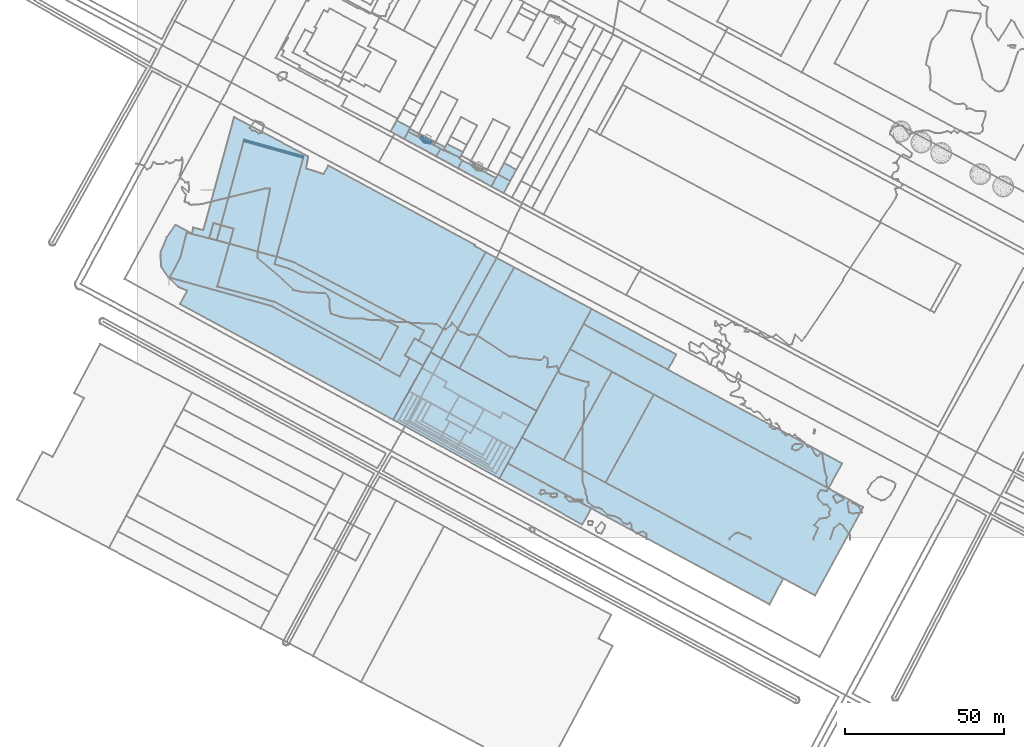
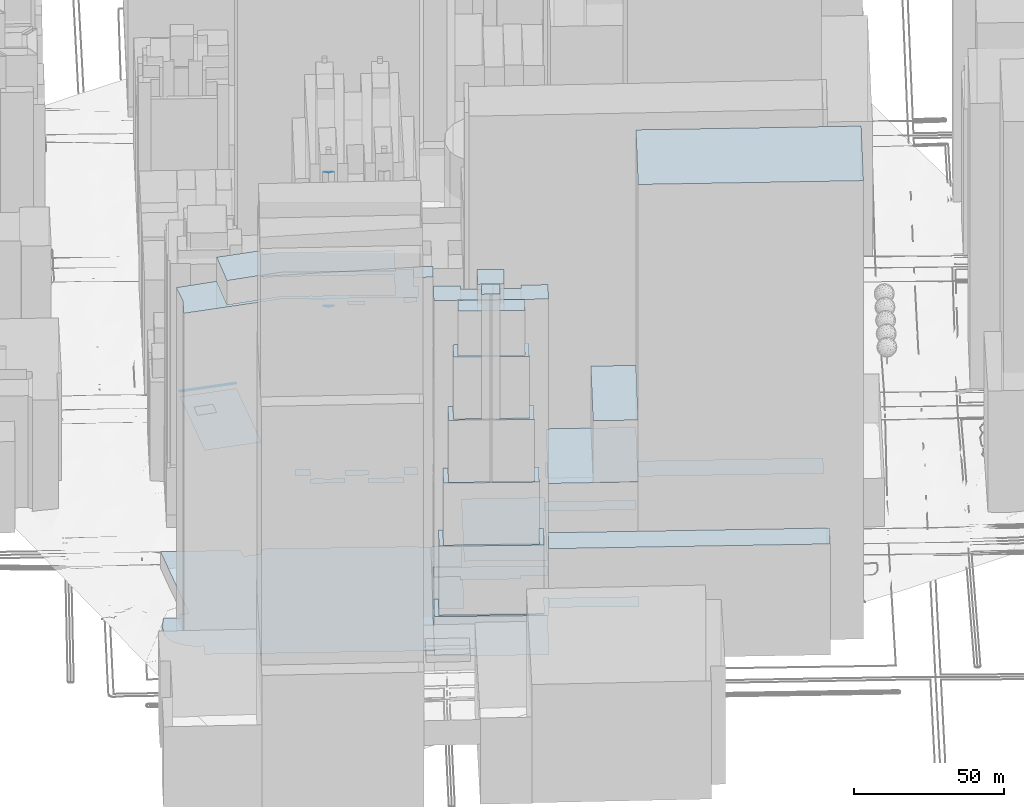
# Not in any storey, part 37 of 80: 37 roofs.
"""IFC4 building model written with IfcOpenShell, lengths in metres."""

from ifc_helpers import new_model, si_unit, frame, origin_with_axes, place, context, subcontext, project, spatial, polygons, element, save


model = new_model("IFC4")

# Units and contexts
model_context = context("Model", 3, precision=1e-05, world=origin_with_axes())
body_context = subcontext(model_context, "Body", "Model", "MODEL_VIEW")
ifc_project = project(units=[si_unit("AREAUNIT", "SQUARE_METRE"), si_unit("LENGTHUNIT", "METRE")], contexts=[model_context])

# Sites, building
site_1_placement = place(None, origin_with_axes())
site_1 = spatial("IfcSite", under=ifc_project, at=site_1_placement, Name="Topoexport Site")
site_2_placement = place(site_1_placement, origin_with_axes())
site_2 = spatial("IfcSite", under=site_1, at=site_2_placement, Name="TPX_BATIMENTS")
building_1_placement = place(site_2_placement, frame((114.0067788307, 18.7761491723, 19.812011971), z_axis=(0.0, 0.0, 1.0), x_axis=(1.0, 0.0, 0.0)))
building_1 = spatial("IfcBuilding", under=site_2, at=building_1_placement, Name="Batiment 14", CompositionType="ELEMENT")

# Roof
roof_1_placement = place(None, frame((114.0067788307, 18.7761491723, 19.812011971), z_axis=(0.0, 0.0, 1.0), x_axis=(1.0, 0.0, 0.0)))
element("IfcRoof", 1, at=roof_1_placement, inside=building_1, Name="Toiture 0", context=body_context, shape_type="Tessellation", body=[
    polygons([(0.0, 0.0, 25.0), (26.1365112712, -14.6177862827, 25.0), (28.9299641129, -9.4671911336, 25.0), (2.6213710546, 4.7044961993, 25.0)], [[[4, 1, 2]], [[2, 3, 4]]]),
])

# Building
building_2_placement = place(site_2_placement, frame((116.6281498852, 23.4806453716, 19.8729106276), z_axis=(0.0, 0.0, 1.0), x_axis=(1.0, 0.0, 0.0)))
building_2 = spatial("IfcBuilding", under=site_2, at=building_2_placement, Name="Batiment 15", CompositionType="ELEMENT")

# Roof
roof_2_placement = place(None, frame((116.6281498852, 23.4806453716, 19.8729106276), z_axis=(0.0, 0.0, 1.0), x_axis=(1.0, 0.0, 0.0)))
element("IfcRoof", 2, at=roof_2_placement, inside=building_2, Name="Toiture 0", context=body_context, shape_type="Tessellation", body=[
    polygons([(0.0, 0.0, 45.0), (82.4513940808, -44.4055894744, 45.0), (86.7882297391, -36.2283155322, 45.0), (4.4642793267, 8.112091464, 45.0)], [[[4, 1, 2]], [[2, 3, 4]]]),
])

# Building
building_3_placement = place(site_2_placement, frame((147.4689145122, 17.3885478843, 19.6016125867), z_axis=(0.0, 0.0, 1.0), x_axis=(1.0, 0.0, 0.0)))
building_3 = spatial("IfcBuilding", under=site_2, at=building_3_placement, Name="Batiment 16", CompositionType="ELEMENT")

# Roof
roof_3_placement = place(None, frame((147.4689145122, 17.3885478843, 19.6016125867), z_axis=(0.0, 0.0, 1.0), x_axis=(1.0, 0.0, 0.0)))
element("IfcRoof", 3, at=roof_3_placement, inside=building_3, Name="Toiture 0", context=body_context, shape_type="Tessellation", body=[
    polygons([(0.0, 0.0, 186.0), (65.9545168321, -35.5265708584, 186.0), (81.1469833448, -7.7163751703, 186.0), (15.1841917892, 27.8099611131, 186.0)], [[[4, 1, 2]], [[2, 3, 4]]]),
])

# Building
building_4_placement = place(site_2_placement, frame((136.2766873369, 59.4026434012, 19.8866502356), z_axis=(0.0, 0.0, 1.0), x_axis=(1.0, 0.0, 0.0)))
building_4 = spatial("IfcBuilding", under=site_2, at=building_4_placement, Name="Batiment 17", CompositionType="ELEMENT")

# Roof
roof_4_placement = place(None, frame((136.2766873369, 59.4026434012, 19.8866502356), z_axis=(0.0, 0.0, 1.0), x_axis=(1.0, 0.0, 0.0)))
element("IfcRoof", 4, at=roof_4_placement, inside=building_4, Name="Toiture 0", context=body_context, shape_type="Tessellation", body=[
    polygons([(0.0, 0.0, 45.0), (81.3807730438, -43.8293972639, 45.0), (85.6535269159, -35.9526169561, 45.0), (4.2387920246, 7.8985421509, 45.0)], [[[4, 1, 2]], [[2, 3, 4]]]),
])

# Building
building_5_placement = place(site_2_placement, frame((140.5154793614, 67.301185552, 20.1850862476), z_axis=(0.0, 0.0, 1.0), x_axis=(1.0, 0.0, 0.0)))
building_5 = spatial("IfcBuilding", under=site_2, at=building_5_placement, Name="Batiment 18", CompositionType="ELEMENT")

# Roof
roof_5_placement = place(None, frame((140.5154793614, 67.301185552, 20.1850862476), z_axis=(0.0, 0.0, 1.0), x_axis=(1.0, 0.0, 0.0)))
element("IfcRoof", 5, at=roof_5_placement, inside=building_5, Name="Toiture 0", context=body_context, shape_type="Tessellation", body=[
    polygons([(0.0, 0.0, 25.0), (26.597401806, -14.3347775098, 25.0), (29.2006844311, -9.5305509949, 25.0), (2.5614786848, 4.7704244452, 25.0)], [[[4, 1, 2]], [[2, 3, 4]]]),
])

# Building
building_6_placement = place(site_2_placement, frame((121.0924292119, 31.5927368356, 19.8759564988), z_axis=(0.0, 0.0, 1.0), x_axis=(1.0, 0.0, 0.0)))
building_6 = spatial("IfcBuilding", under=site_2, at=building_6_placement, Name="Batiment 19", CompositionType="ELEMENT")

# Roof
roof_6_placement = place(None, frame((121.0924292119, 31.5927368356, 19.8759564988), z_axis=(0.0, 0.0, 1.0), x_axis=(1.0, 0.0, 0.0)))
element("IfcRoof", 6, at=roof_6_placement, inside=building_6, Name="Toiture 0", context=body_context, shape_type="Tessellation", body=[
    polygons([(0.0, 0.0, 65.0), (26.3764853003, -14.2041889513, 65.0), (41.5606770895, 13.6057721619, 65.0), (15.1842581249, 27.8099065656, 65.0)], [[[4, 1, 2]], [[2, 3, 4]]]),
])

# Building
building_7_placement = place(site_2_placement, frame((134.2679337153, 24.4960340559, 85.0121369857), z_axis=(0.0, 0.0, 1.0), x_axis=(1.0, 0.0, 0.0)))
building_7 = spatial("IfcBuilding", under=site_2, at=building_7_placement, Name="Batiment 20", CompositionType="ELEMENT")

# Roof
roof_7_placement = place(None, frame((134.2679337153, 24.4960340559, 85.0121369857), z_axis=(0.0, 0.0, 1.0), x_axis=(1.0, 0.0, 0.0)))
element("IfcRoof", 7, at=roof_7_placement, inside=building_7, Name="Toiture 0", context=body_context, shape_type="Tessellation", body=[
    polygons([(0.0, 0.0, 25.0), (13.2009807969, -7.1074861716, 25.0), (28.3851725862, 20.7024749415, 25.0), (15.1842249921, 27.8099338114, 25.0)], [[[4, 1, 2]], [[2, 3, 4]]]),
])

# Building
building_8_placement = place(site_2_placement, frame((80.6336597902, 37.2179875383, 19.5500389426), z_axis=(0.0, 0.0, 1.0), x_axis=(1.0, 0.0, 0.0)))
building_8 = spatial("IfcBuilding", under=site_2, at=building_8_placement, Name="Batiment 21", CompositionType="ELEMENT")

# Roof
roof_8_placement = place(None, frame((80.6336597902, 37.2179875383, 19.5500389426), z_axis=(0.0, 0.0, 1.0), x_axis=(1.0, 0.0, 0.0)))
element("IfcRoof", 8, at=roof_8_placement, inside=building_8, Name="Toiture 0", context=body_context, shape_type="Tessellation", body=[
    polygons([(0.0, 0.0, 6.0), (33.3731190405, -18.441838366, 6.0), (45.0971948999, 2.7553209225, 6.0), (11.6985592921, 21.2190134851, 6.0)], [[[4, 1, 2]], [[2, 3, 4]]]),
])

# Building
building_9_placement = place(site_2_placement, frame((97.2544970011, 37.2888688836, 19.612828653), z_axis=(0.0, 0.0, 1.0), x_axis=(1.0, 0.0, 0.0)))
building_9 = spatial("IfcBuilding", under=site_2, at=building_9_placement, Name="Batiment 22", CompositionType="ELEMENT")

# Roof
roof_9_placement = place(None, frame((97.2544970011, 37.2888688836, 19.612828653), z_axis=(0.0, 0.0, 1.0), x_axis=(1.0, 0.0, 0.0)))
element("IfcRoof", 9, at=roof_9_placement, inside=building_9, Name="Toiture 0", context=body_context, shape_type="Tessellation", body=[
    polygons([(0.0, 0.0, 151.0), (7.7655788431, -4.295199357, 151.0), (11.9084198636, 3.14701657, 151.0), (4.1512866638, 7.4423095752, 151.0)], [[[4, 1, 2]], [[2, 3, 4]]]),
])

# Building
building_10_placement = place(site_2_placement, frame((85.6283664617, 46.1799867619, 19.6882360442), z_axis=(0.0, 0.0, 1.0), x_axis=(1.0, 0.0, 0.0)))
building_10 = spatial("IfcBuilding", under=site_2, at=building_10_placement, Name="Batiment 23", CompositionType="ELEMENT")

# Roof
roof_10_placement = place(None, frame((85.6283664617, 46.1799867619, 19.6882360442), z_axis=(0.0, 0.0, 1.0), x_axis=(1.0, 0.0, 0.0)))
element("IfcRoof", 10, at=roof_10_placement, inside=building_10, Name="Toiture 0", context=body_context, shape_type="Tessellation", body=[
    polygons([(0.0, 0.0, 143.0), (33.4391985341, -18.3189230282, 143.0), (37.4908592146, -11.0220874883, 143.0), (29.5893203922, -6.650770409, 143.0), (28.6218928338, -8.3939587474, 143.0), (10.9668168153, 1.3597031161, 143.0), (11.8682699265, 2.9688959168, 143.0), (4.0518112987, 7.2857163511, 143.0)], [[[8, 1, 2]], [[2, 3, 4]], [[6, 7, 8]], [[2, 4, 5]], [[6, 8, 2]], [[2, 5, 6]]]),
])

# Building
building_11_placement = place(site_2_placement, frame((89.6801777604, 53.465703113, 19.6964299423), z_axis=(0.0, 0.0, 1.0), x_axis=(1.0, 0.0, 0.0)))
building_11 = spatial("IfcBuilding", under=site_2, at=building_11_placement, Name="Batiment 24", CompositionType="ELEMENT")

# Roof
roof_11_placement = place(None, frame((89.6801777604, 53.465703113, 19.6964299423), z_axis=(0.0, 0.0, 1.0), x_axis=(1.0, 0.0, 0.0)))
element("IfcRoof", 11, at=roof_11_placement, inside=building_11, Name="Toiture 0", context=body_context, shape_type="Tessellation", body=[
    polygons([(0.0, 0.0, 25.0), (7.8164586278, -4.3168204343, 25.0), (6.9150055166, -5.926013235, 25.0), (24.5700815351, -15.6796750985, 25.0), (25.5375090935, -13.9364867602, 25.0), (33.4390479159, -18.3078038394, 25.0), (36.0506769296, -13.4923946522, 25.0), (2.6520413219, 4.9712979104, 25.0)], [[[8, 1, 2]], [[2, 3, 4]], [[5, 6, 7]], [[7, 8, 2]], [[2, 4, 5]], [[5, 7, 2]]]),
])

# Building
building_12_placement = place(site_2_placement, frame((101.457152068, 53.3915293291, 19.7455046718), z_axis=(0.0, 0.0, 1.0), x_axis=(1.0, 0.0, 0.0)))
building_12 = spatial("IfcBuilding", under=site_2, at=building_12_placement, Name="Batiment 25", CompositionType="ELEMENT")

# Roof
roof_12_placement = place(None, frame((101.457152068, 53.3915293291, 19.7455046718), z_axis=(0.0, 0.0, 1.0), x_axis=(1.0, 0.0, 0.0)))
element("IfcRoof", 12, at=roof_12_placement, inside=building_12, Name="Toiture 0", context=body_context, shape_type="Tessellation", body=[
    polygons([(0.0, 0.0, 27.2000007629), (24.273702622, -13.4182208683, 27.2000007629), (41.6198059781, 18.6800806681, 27.2000007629), (17.2230477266, 31.7970531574, 27.2000007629)], [[[4, 1, 2]], [[2, 3, 4]]]),
])

# Building
building_13_placement = place(site_2_placement, frame((92.3322190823, 58.4370010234, 26.7455046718), z_axis=(0.0, 0.0, 1.0), x_axis=(1.0, 0.0, 0.0)))
building_13 = spatial("IfcBuilding", under=site_2, at=building_13_placement, Name="Batiment 26", CompositionType="ELEMENT")

# Roof
roof_13_placement = place(None, frame((92.3322190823, 58.4370010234, 26.7455046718), z_axis=(0.0, 0.0, 1.0), x_axis=(1.0, 0.0, 0.0)))
element("IfcRoof", 13, at=roof_13_placement, inside=building_13, Name="Toiture 0", context=body_context, shape_type="Tessellation", body=[
    polygons([(0.0, 0.0, 1.0), (9.1249329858, -5.0454716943, 1.0), (26.3479807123, 26.751581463, 1.0), (17.4371802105, 31.5330646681, 1.0)], [[[4, 1, 2]], [[2, 3, 4]]]),
])

# Building
building_14_placement = place(site_2_placement, frame((111.5045105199, 110.6515077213, 20.6975796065), z_axis=(0.0, 0.0, 1.0), x_axis=(1.0, 0.0, 0.0)))
building_14 = spatial("IfcBuilding", under=site_2, at=building_14_placement, Name="Batiment 28", CompositionType="ELEMENT")

# Roof
roof_14_placement = place(None, frame((111.5045105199, 110.6515077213, 20.6975796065), z_axis=(0.0, 0.0, 1.0), x_axis=(1.0, 0.0, 0.0)))
element("IfcRoof", 14, at=roof_14_placement, inside=building_14, Name="Toiture 0", context=body_context, shape_type="Tessellation", body=[
    polygons([(0.0, 0.0, 23.0), (3.9161944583, -2.1194488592, 23.0), (5.9481877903, 1.7233296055, 23.0), (2.0830242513, 3.8100633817, 23.0)], [[[4, 1, 2]], [[2, 3, 4]]]),
])

# Building
building_15_placement = place(site_2_placement, frame((101.0554515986, 116.3255174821, 20.7066671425), z_axis=(0.0, 0.0, 1.0), x_axis=(1.0, 0.0, 0.0)))
building_15 = spatial("IfcBuilding", under=site_2, at=building_15_placement, Name="Batiment 32", CompositionType="ELEMENT")

# Roof
roof_15_placement = place(None, frame((101.0554515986, 116.3255174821, 20.7066671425), z_axis=(0.0, 0.0, 1.0), x_axis=(1.0, 0.0, 0.0)))
element("IfcRoof", 15, at=roof_15_placement, inside=building_15, Name="Toiture 0", context=body_context, shape_type="Tessellation", body=[
    polygons([(0.0, 0.0, 20.0), (10.4490589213, -5.6740097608, 20.0), (11.8959655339, -3.0592762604, 20.0), (7.7933107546, -0.875378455, 20.0), (5.7130921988, -0.5664729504, 20.0), (4.3532680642, 0.949843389, 20.0), (1.3463972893, 2.5469505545, 20.0)], [[[7, 1, 2]], [[2, 3, 4]], [[5, 6, 7]], [[2, 4, 5]], [[5, 7, 2]]]),
])

# Building
building_16_placement = place(site_2_placement, frame((113.5875347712, 114.461571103, 20.7566379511), z_axis=(0.0, 0.0, 1.0), x_axis=(1.0, 0.0, 0.0)))
building_16 = spatial("IfcBuilding", under=site_2, at=building_16_placement, Name="Batiment 36", CompositionType="ELEMENT")

# Roof
roof_16_placement = place(None, frame((113.5875347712, 114.461571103, 20.7566379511), z_axis=(0.0, 0.0, 1.0), x_axis=(1.0, 0.0, 0.0)))
element("IfcRoof", 16, at=roof_16_placement, inside=building_16, Name="Toiture 0", context=body_context, shape_type="Tessellation", body=[
    polygons([(0.0, 0.0, 90.0), (3.8651635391, -2.0867337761, 90.0), (5.7992221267, 1.4662491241, 90.0), (1.9000401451, 3.5747912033, 90.0)], [[[4, 1, 2]], [[2, 3, 4]]]),
])

# Building
building_17_placement = place(site_2_placement, frame((89.3637116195, 126.5148286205, 113.9436356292), z_axis=(0.0, 0.0, 1.0), x_axis=(1.0, 0.0, 0.0)))
building_17 = spatial("IfcBuilding", under=site_2, at=building_17_placement, Name="Batiment 188", CompositionType="ELEMENT")

# Roof
roof_17_placement = place(None, frame((89.3637116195, 126.5148286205, 113.9436356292), z_axis=(0.0, 0.0, 1.0), x_axis=(1.0, 0.0, 0.0)))
element("IfcRoof", 17, at=roof_17_placement, inside=building_17, Name="Toiture 0", context=body_context, shape_type="Tessellation", body=[
    polygons([(0.0, 0.0, 51.0), (1.4178709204, -1.4268270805, 51.0), (3.4315938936, -1.825327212, 51.0), (0.9512587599, -0.4996567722, 51.0)], [[[4, 1, 2]], [[2, 3, 4]]]),
])

# Building
building_18_placement = place(site_2_placement, frame((89.049807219, 125.9227641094, 40.9291720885), z_axis=(0.0, 0.0, 1.0), x_axis=(1.0, 0.0, 0.0)))
building_18 = spatial("IfcBuilding", under=site_2, at=building_18_placement, Name="Batiment 190", CompositionType="ELEMENT")

# Roof
roof_18_placement = place(None, frame((89.049807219, 125.9227641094, 40.9291720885), z_axis=(0.0, 0.0, 1.0), x_axis=(1.0, 0.0, 0.0)))
element("IfcRoof", 18, at=roof_18_placement, inside=building_18, Name="Toiture 0", context=body_context, shape_type="Tessellation", body=[
    polygons([(0.0, 0.0, 70.0), (1.3513787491, -1.5164173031, 70.0), (3.4399056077, -1.8141285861, 70.0)], [[[3, 1, 2]]]),
])

# Building
building_19_placement = place(site_2_placement, frame((85.346445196, 127.8892664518, 20.9224524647), z_axis=(0.0, 0.0, 1.0), x_axis=(1.0, 0.0, 0.0)))
building_19 = spatial("IfcBuilding", under=site_2, at=building_19_placement, Name="Batiment 191", CompositionType="ELEMENT")

# Roof
roof_19_placement = place(None, frame((85.346445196, 127.8892664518, 20.9224524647), z_axis=(0.0, 0.0, 1.0), x_axis=(1.0, 0.0, 0.0)))
element("IfcRoof", 19, at=roof_19_placement, inside=building_19, Name="Toiture 0", context=body_context, shape_type="Tessellation", body=[
    polygons([(0.0, 0.0, 93.0), (11.0759435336, -5.8665913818, 93.0), (11.6132272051, -4.8833535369, 93.0), (8.5131290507, -3.254018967, 93.0), (8.2981897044, -3.6450938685, 93.0), (7.4488603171, -3.1997650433, 93.0), (0.5122211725, 0.9607414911, 93.0)], [[[7, 1, 2]], [[2, 3, 4]], [[6, 7, 2]], [[2, 4, 5]], [[5, 6, 2]]]),
])

# Building
building_20_placement = place(site_2_placement, frame((79.7834254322, 127.8912834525, 20.9495116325), z_axis=(0.0, 0.0, 1.0), x_axis=(1.0, 0.0, 0.0)))
building_20 = spatial("IfcBuilding", under=site_2, at=building_20_placement, Name="Batiment 194", CompositionType="ELEMENT")

# Roof
roof_20_placement = place(None, frame((79.7834254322, 127.8912834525, 20.9495116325), z_axis=(0.0, 0.0, 1.0), x_axis=(1.0, 0.0, 0.0)))
element("IfcRoof", 20, at=roof_20_placement, inside=building_20, Name="Toiture 0", context=body_context, shape_type="Tessellation", body=[
    polygons([(0.0, 0.0, 23.0), (4.3157123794, -2.3590755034, 23.0), (6.2321287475, 1.260307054, 23.0), (1.9932839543, 3.5425582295, 23.0)], [[[4, 1, 2]], [[2, 3, 4]]]),
])

# Building
building_21_placement = place(site_2_placement, frame((22.7189740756, 94.3773567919, 88.9019969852), z_axis=(0.0, 0.0, 1.0), x_axis=(1.0, 0.0, 0.0)))
building_21 = spatial("IfcBuilding", under=site_2, at=building_21_placement, Name="Batiment 199", CompositionType="ELEMENT")

# Roof
roof_21_placement = place(None, frame((22.7189740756, 94.3773567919, 88.9019969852), z_axis=(0.0, 0.0, 1.0), x_axis=(1.0, 0.0, 0.0)))
element("IfcRoof", 21, at=roof_21_placement, inside=building_21, Name="Toiture 0", context=body_context, shape_type="Tessellation", body=[
    polygons([(0.0, 0.0, 20.0), (6.3601779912, -1.7691695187, 20.0), (7.681097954, 2.9757163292, 20.0), (1.3210524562, 4.7337839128, 20.0)], [[[4, 1, 2]], [[2, 3, 4]]]),
])

# Building
building_22_placement = place(site_2_placement, frame((25.0902924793, 93.7165336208, 19.1898978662), z_axis=(0.0, 0.0, 1.0), x_axis=(1.0, 0.0, 0.0)))
building_22 = spatial("IfcBuilding", under=site_2, at=building_22_placement, Name="Batiment 200", CompositionType="ELEMENT")

# Roof
roof_22_placement = place(None, frame((25.0902924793, 93.7165336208, 19.1898978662), z_axis=(0.0, 0.0, 1.0), x_axis=(1.0, 0.0, 0.0)))
element("IfcRoof", 22, at=roof_22_placement, inside=building_22, Name="Toiture 0", context=body_context, shape_type="Tessellation", body=[
    polygons([(0.0, 0.0, 75.0), (18.8092921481, -5.2107143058, 75.0), (27.1849139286, 25.928386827, 75.0), (8.4934731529, 31.1737525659, 75.0)], [[[4, 1, 2]], [[2, 3, 4]]]),
])

# Building
building_23_placement = place(site_2_placement, frame((33.5837656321, 124.8902861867, 21.1228938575), z_axis=(0.0, 0.0, 1.0), x_axis=(1.0, 0.0, 0.0)))
building_23 = spatial("IfcBuilding", under=site_2, at=building_23_placement, Name="Batiment 201", CompositionType="ELEMENT")

# Roof
roof_23_placement = place(None, frame((33.5837656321, 124.8902861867, 21.1228938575), z_axis=(0.0, 0.0, 1.0), x_axis=(1.0, 0.0, 0.0)))
element("IfcRoof", 23, at=roof_23_placement, inside=building_23, Name="Toiture 0", context=body_context, shape_type="Tessellation", body=[
    polygons([(0.0, 0.0, 75.0), (18.6914407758, -5.2453657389, 75.0), (18.8375703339, -4.7440683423, 75.0), (0.1460018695, 0.512397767, 75.0)], [[[4, 1, 2]], [[2, 3, 4]]]),
])

# Building
building_24_placement = place(site_2_placement, frame((84.0991378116, 125.5322079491, 20.8772412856), z_axis=(0.0, 0.0, 1.0), x_axis=(1.0, 0.0, 0.0)))
building_24 = spatial("IfcBuilding", under=site_2, at=building_24_placement, Name="Batiment 202", CompositionType="ELEMENT")

# Roof
roof_24_placement = place(None, frame((84.0991378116, 125.5322079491, 20.8772412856), z_axis=(0.0, 0.0, 1.0), x_axis=(1.0, 0.0, 0.0)))
element("IfcRoof", 24, at=roof_24_placement, inside=building_24, Name="Toiture 0", context=body_context, shape_type="Tessellation", body=[
    polygons([(0.0, 0.0, 20.0), (10.0753325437, -5.4785327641, 20.0), (11.4144512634, -3.0315882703, 20.0), (8.3905750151, -1.4235724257, 20.0), (6.3020481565, -1.1258611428, 20.0), (4.9506694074, 0.3905561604, 20.0), (1.2473073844, 2.3570585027, 20.0)], [[[7, 1, 2]], [[2, 3, 4]], [[5, 6, 7]], [[2, 4, 5]], [[5, 7, 2]]]),
])

# Building
building_25_placement = place(site_2_placement, frame((96.571222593, 122.290857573, 20.9256419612), z_axis=(0.0, 0.0, 1.0), x_axis=(1.0, 0.0, 0.0)))
building_25 = spatial("IfcBuilding", under=site_2, at=building_25_placement, Name="Batiment 204", CompositionType="ELEMENT")

# Roof
roof_25_placement = place(None, frame((96.571222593, 122.290857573, 20.9256419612), z_axis=(0.0, 0.0, 1.0), x_axis=(1.0, 0.0, 0.0)))
element("IfcRoof", 25, at=roof_25_placement, inside=building_25, Name="Toiture 0", context=body_context, shape_type="Tessellation", body=[
    polygons([(0.0, 0.0, 90.0), (5.0532629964, -2.6280560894, 90.0), (5.9949739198, -0.8518608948, 90.0), (0.9583347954, 1.7985921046, 90.0)], [[[4, 1, 2]], [[2, 3, 4]]]),
])

# Building
building_26_placement = place(site_2_placement, frame((94.1744703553, 120.053675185, 20.8772412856), z_axis=(0.0, 0.0, 1.0), x_axis=(1.0, 0.0, 0.0)))
building_26 = spatial("IfcBuilding", under=site_2, at=building_26_placement, Name="Batiment 205", CompositionType="ELEMENT")

# Roof
roof_26_placement = place(None, frame((94.1744703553, 120.053675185, 20.8772412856), z_axis=(0.0, 0.0, 1.0), x_axis=(1.0, 0.0, 0.0)))
element("IfcRoof", 26, at=roof_26_placement, inside=building_26, Name="Toiture 0", context=body_context, shape_type="Tessellation", body=[
    polygons([(0.0, 0.0, 23.0), (6.8809812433, -3.7281577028, 23.0), (8.2273785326, -1.1812071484, 23.0), (7.2929989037, -0.6813558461, 23.0), (7.4500152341, -0.3908737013, 23.0), (1.3391187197, 2.4469444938, 23.0)], [[[6, 1, 2]], [[2, 3, 4]], [[4, 5, 6]], [[6, 2, 4]]]),
])

# Building
building_27_placement = place(site_2_placement, frame((7.3491025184, 89.8136402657, 17.7214611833), z_axis=(0.0, 0.0, 1.0), x_axis=(1.0, 0.0, 0.0)))
building_27 = spatial("IfcBuilding", under=site_2, at=building_27_placement, Name="Batiment 206", CompositionType="ELEMENT")

# Roof
roof_27_placement = place(None, frame((7.3491025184, 89.8136402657, 17.7214611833), z_axis=(0.0, 0.0, 1.0), x_axis=(1.0, 0.0, 0.0)))
element("IfcRoof", 27, at=roof_27_placement, inside=building_27, Name="Toiture 0", context=body_context, shape_type="Tessellation", body=[
    polygons([(0.0, 0.0, 10.0), (0.2453875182, -4.415847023, 10.0), (2.6154001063, -7.8744561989, 10.0), (5.7231550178, -10.8915176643, 10.0), (8.4542586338, -12.0033616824, 10.0), (6.1566151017, -16.2377711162, 10.0), (73.2845572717, -52.5956527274, 10.0), (102.4202967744, 0.1564254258, 10.0), (98.8779250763, 2.0692765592, 10.0), (99.0514359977, 2.3932571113, 10.0), (52.8636652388, 27.4365171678, 10.0), (51.4007622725, 24.7438929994, 10.0), (45.8767148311, 26.4783333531, 10.0), (46.5332031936, 30.282922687, 10.0), (23.1839558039, 42.6351800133, 10.0), (13.5007386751, 7.051135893, 10.0), (10.3255164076, 7.8802686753, 10.0), (9.9255178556, 5.9771433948, 10.0), (4.7352910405, 8.7702011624, 10.0), (2.0193040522, 4.9417221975, 10.0)], [[[20, 1, 2]], [[2, 3, 4]], [[5, 6, 7]], [[7, 8, 9]], [[9, 10, 11]], [[13, 14, 15]], [[16, 17, 18]], [[18, 19, 20]], [[20, 2, 4]], [[5, 7, 9]], [[9, 11, 12]], [[13, 15, 16]], [[18, 20, 4]], [[4, 5, 9]], [[9, 12, 13]], [[16, 18, 4]], [[4, 9, 13]], [[13, 16, 4]]]),
])

# Building
building_28_placement = place(site_2_placement, frame((25.2509816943, 79.141148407, 19.2330182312), z_axis=(0.0, 0.0, 1.0), x_axis=(1.0, 0.0, 0.0)))
building_28 = spatial("IfcBuilding", under=site_2, at=building_28_placement, Name="Batiment 207", CompositionType="ELEMENT")

# Roof
roof_28_placement = place(None, frame((25.2509816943, 79.141148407, 19.2330182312), z_axis=(0.0, 0.0, 1.0), x_axis=(1.0, 0.0, 0.0)))
element("IfcRoof", 28, at=roof_28_placement, inside=building_28, Name="Toiture 0", context=body_context, shape_type="Tessellation", body=[
    polygons([(0.0, 0.0, 152.6999969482), (18.0873774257, -4.830514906, 152.6999969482), (51.3228673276, -23.0742728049, 152.6999969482), (56.8754076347, -12.7180175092, 152.6999969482), (22.7612366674, 5.593231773, 152.6999969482), (18.0174305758, 7.0147710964, 152.6999969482), (18.648602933, 9.3646709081, 152.6999969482), (3.8281703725, 13.4670388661, 152.6999969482)], [[[8, 1, 2]], [[2, 3, 4]], [[4, 5, 6]], [[6, 7, 8]], [[8, 2, 4]], [[4, 6, 8]]]),
])

# Building
building_29_placement = place(site_2_placement, frame((84.3328700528, 57.422623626, 19.717099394), z_axis=(0.0, 0.0, 1.0), x_axis=(1.0, 0.0, 0.0)))
building_29 = spatial("IfcBuilding", under=site_2, at=building_29_placement, Name="Batiment 208", CompositionType="ELEMENT")

# Roof
roof_29_placement = place(None, frame((84.3328700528, 57.422623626, 19.717099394), z_axis=(0.0, 0.0, 1.0), x_axis=(1.0, 0.0, 0.0)))
element("IfcRoof", 29, at=roof_29_placement, inside=building_29, Name="Toiture 0", context=body_context, shape_type="Tessellation", body=[
    polygons([(0.0, 0.0, 146.0), (5.7007108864, -3.131250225, 146.0), (8.685731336, 2.2435956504, 146.0), (2.9850231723, 5.3748435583, 146.0)], [[[4, 1, 2]], [[2, 3, 4]]]),
])

# Building
building_30_placement = place(site_2_placement, frame((89.5609801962, 36.8331506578, 19.6677865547), z_axis=(0.0, 0.0, 1.0), x_axis=(1.0, 0.0, 0.0)))
building_30 = spatial("IfcBuilding", under=site_2, at=building_30_placement, Name="Batiment 209", CompositionType="ELEMENT")

# Roof
roof_30_placement = place(None, frame((89.5609801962, 36.8331506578, 19.6677865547), z_axis=(0.0, 0.0, 1.0), x_axis=(1.0, 0.0, 0.0)))
element("IfcRoof", 30, at=roof_30_placement, inside=building_30, Name="Toiture 0", context=body_context, shape_type="Tessellation", body=[
    polygons([(0.0, 0.0, 143.0), (19.4138892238, -10.7324529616, 143.0), (22.5396898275, -5.1228171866, 143.0), (3.0597039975, 5.4867351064, 143.0)], [[[4, 1, 2]], [[2, 3, 4]]]),
])

# Building
building_31_placement = place(site_2_placement, frame((87.7213295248, 36.7784814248, 19.6583385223), z_axis=(0.0, 0.0, 1.0), x_axis=(1.0, 0.0, 0.0)))
building_31 = spatial("IfcBuilding", under=site_2, at=building_31_placement, Name="Batiment 210", CompositionType="ELEMENT")

# Roof
roof_31_placement = place(None, frame((87.7213295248, 36.7784814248, 19.6583385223), z_axis=(0.0, 0.0, 1.0), x_axis=(1.0, 0.0, 0.0)))
element("IfcRoof", 31, at=roof_31_placement, inside=building_31, Name="Toiture 0", context=body_context, shape_type="Tessellation", body=[
    polygons([(0.0, 0.0, 125.0), (22.0733143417, -12.2114746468, 125.0), (25.6622439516, -5.774892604, 125.0), (24.3793404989, -5.0681479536, 125.0), (21.2535398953, -10.6777837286, 125.0), (1.8396506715, 0.054669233, 125.0), (4.8993546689, 5.5414043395, 125.0), (3.514524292, 6.3024800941, 125.0)], [[[2, 3, 4]], [[6, 7, 8]], [[2, 4, 5]], [[6, 8, 1]], [[1, 2, 5]], [[5, 6, 1]]]),
])

# Building
building_32_placement = place(site_2_placement, frame((85.863250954, 36.8568256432, 19.6310872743), z_axis=(0.0, 0.0, 1.0), x_axis=(1.0, 0.0, 0.0)))
building_32 = spatial("IfcBuilding", under=site_2, at=building_32_placement, Name="Batiment 211", CompositionType="ELEMENT")

# Roof
roof_32_placement = place(None, frame((85.863250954, 36.8568256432, 19.6310872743), z_axis=(0.0, 0.0, 1.0), x_axis=(1.0, 0.0, 0.0)))
element("IfcRoof", 32, at=roof_32_placement, inside=building_32, Name="Toiture 0", context=body_context, shape_type="Tessellation", body=[
    polygons([(0.0, 0.0, 100.0), (24.9704931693, -13.8098599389, 100.0), (28.9646281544, -6.6469244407, 100.0), (27.5203225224, -5.8532368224, 100.0), (23.9313929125, -12.2898188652, 100.0), (1.8580785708, -0.0783442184, 100.0), (5.3726028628, 6.2241358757, 100.0), (3.9197328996, 7.0288307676, 100.0)], [[[2, 3, 4]], [[6, 7, 8]], [[2, 4, 5]], [[6, 8, 1]], [[1, 2, 5]], [[5, 6, 1]]]),
])

# Building
building_33_placement = place(site_2_placement, frame((80.6336597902, 37.2179875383, 19.5500389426), z_axis=(0.0, 0.0, 1.0), x_axis=(1.0, 0.0, 0.0)))
building_33 = spatial("IfcBuilding", under=site_2, at=building_33_placement, Name="Batiment 212", CompositionType="ELEMENT")

# Roof
roof_33_placement = place(None, frame((80.6336597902, 37.2179875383, 19.5500389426), z_axis=(0.0, 0.0, 1.0), x_axis=(1.0, 0.0, 0.0)))
element("IfcRoof", 33, at=roof_33_placement, inside=building_33, Name="Toiture 0", context=body_context, shape_type="Tessellation", body=[
    polygons([(0.0, 0.0, 22.0), (33.3731190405, -18.441838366, 22.0), (38.4339052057, -9.3569238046, 22.0), (37.006479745, -8.5630409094, 22.0), (32.3260927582, -16.9662987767, 22.0), (1.7566630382, -0.0684208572, 22.0), (6.3625259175, 8.2118271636, 22.0), (4.9947066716, 8.9619992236, 22.0)], [[[2, 3, 4]], [[6, 7, 8]], [[2, 4, 5]], [[6, 8, 1]], [[1, 2, 5]], [[5, 6, 1]]]),
])

# Building
building_34_placement = place(site_2_placement, frame((95.5478595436, 31.5958001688, 119.6064738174), z_axis=(0.0, 0.0, 1.0), x_axis=(1.0, 0.0, 0.0)))
building_34 = spatial("IfcBuilding", under=site_2, at=building_34_placement, Name="Batiment 213", CompositionType="ELEMENT")

# Roof
roof_34_placement = place(None, frame((95.5478595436, 31.5958001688, 119.6064738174), z_axis=(0.0, 0.0, 1.0), x_axis=(1.0, 0.0, 0.0)))
element("IfcRoof", 34, at=roof_34_placement, inside=building_34, Name="Toiture 0", context=body_context, shape_type="Tessellation", body=[
    polygons([(0.0, 0.0, 51.0), (5.335986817, -2.9800465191, 51.0), (8.1807445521, 2.1156181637, 51.0), (2.8367063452, 5.0622623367, 51.0)], [[[4, 1, 2]], [[2, 3, 4]]]),
])

# Building
building_35_placement = place(site_2_placement, frame((84.0707632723, 37.1024656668, 19.6050347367), z_axis=(0.0, 0.0, 1.0), x_axis=(1.0, 0.0, 0.0)))
building_35 = spatial("IfcBuilding", under=site_2, at=building_35_placement, Name="Batiment 214", CompositionType="ELEMENT")

# Roof
roof_35_placement = place(None, frame((84.0707632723, 37.1024656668, 19.6050347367), z_axis=(0.0, 0.0, 1.0), x_axis=(1.0, 0.0, 0.0)))
element("IfcRoof", 35, at=roof_35_placement, inside=building_35, Name="Toiture 0", context=body_context, shape_type="Tessellation", body=[
    polygons([(0.0, 0.0, 75.0), (27.9101325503, -15.4299566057, 75.0), (32.2099912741, -7.6972545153, 75.0), (30.757115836, -6.8925644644, 75.0), (26.7629808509, -14.0554999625, 75.0), (1.7924876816, -0.2456400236, 75.0), (5.7122205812, 6.783190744, 75.0), (4.233900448, 7.5986926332, 75.0)], [[[2, 3, 4]], [[6, 7, 8]], [[2, 4, 5]], [[6, 8, 1]], [[1, 2, 5]], [[5, 6, 1]]]),
])

# Building
building_36_placement = place(site_2_placement, frame((82.3903228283, 37.1495666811, 19.5783829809), z_axis=(0.0, 0.0, 1.0), x_axis=(1.0, 0.0, 0.0)))
building_36 = spatial("IfcBuilding", under=site_2, at=building_36_placement, Name="Batiment 215", CompositionType="ELEMENT")

# Roof
roof_36_placement = place(None, frame((82.3903228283, 37.1495666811, 19.5783829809), z_axis=(0.0, 0.0, 1.0), x_axis=(1.0, 0.0, 0.0)))
element("IfcRoof", 36, at=roof_36_placement, inside=building_36, Name="Toiture 0", context=body_context, shape_type="Tessellation", body=[
    polygons([(0.0, 0.0, 50.0), (30.5694297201, -16.8978779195, 50.0), (35.2498167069, -8.4946200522, 50.0), (33.8904317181, -7.7443555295, 50.0), (29.5905729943, -15.47705762, 50.0), (1.680440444, -0.0471010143, 50.0), (5.914340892, 7.5515916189, 50.0), (4.6058628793, 8.2802480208, 50.0)], [[[2, 3, 4]], [[6, 7, 8]], [[2, 4, 5]], [[6, 8, 1]], [[1, 2, 5]], [[5, 6, 1]]]),
])

# Building
building_37_placement = place(site_2_placement, frame((10.2935527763, 81.9541038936, 18.1747184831), z_axis=(0.0, 0.0, 1.0), x_axis=(1.0, 0.0, 0.0)))
building_37 = spatial("IfcBuilding", under=site_2, at=building_37_placement, Name="Batiment 217", CompositionType="ELEMENT")

# Roof
roof_37_placement = place(None, frame((10.2935527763, 81.9541038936, 18.1747184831), z_axis=(0.0, 0.0, 1.0), x_axis=(1.0, 0.0, 0.0)))
element("IfcRoof", 37, at=roof_37_placement, inside=building_37, Name="Toiture 0", context=body_context, shape_type="Tessellation", body=[
    polygons([(0.0, 0.0, 144.0), (32.0809116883, -8.9647227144, 144.0), (72.4107688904, -31.1340236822, 144.0), (75.4666046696, -25.3142687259, 144.0), (74.0393172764, -24.5314802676, 144.0), (77.0243404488, -19.1566367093, 144.0), (78.3921568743, -19.9068084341, 144.0), (80.0687125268, -16.7120963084, 144.0), (38.8417037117, 4.9360451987, 144.0), (33.606031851, 6.5517154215, 144.0), (32.9748594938, 4.2018156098, 144.0), (37.7186655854, 2.7802762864, 144.0), (71.8328365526, -15.5309729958, 144.0), (66.2802962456, -25.8872282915, 144.0), (33.0448063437, -7.6434703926, 144.0), (14.957428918, -2.8129554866, 144.0), (18.7855992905, 10.6540833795, 144.0), (5.3227427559, 14.1616083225, 144.0), (3.3283605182, 6.3446916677, 144.0)], [[[3, 4, 5]], [[6, 7, 8]], [[8, 9, 10]], [[10, 11, 12]], [[16, 17, 18]], [[8, 10, 12]], [[16, 18, 19]], [[8, 12, 13]], [[16, 19, 1]], [[6, 8, 13]], [[15, 16, 1]], [[5, 6, 13]], [[15, 1, 2]], [[3, 5, 13]], [[14, 15, 2]], [[3, 13, 14]], [[14, 2, 3]]]),
])

save(model, "model.ifc")
